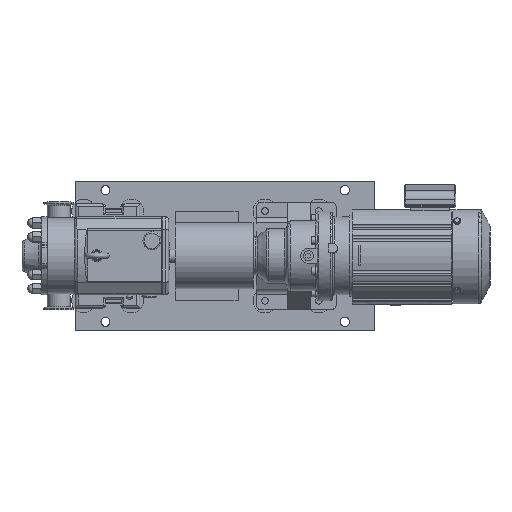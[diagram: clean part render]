
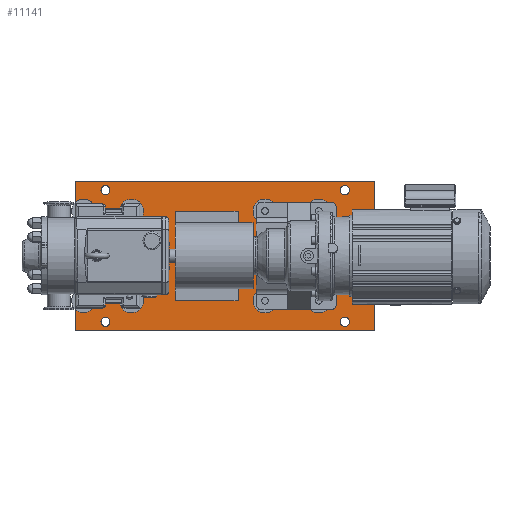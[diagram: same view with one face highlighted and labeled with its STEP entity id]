
A CAD part, top view. The second image highlights one B-rep face of the part: STEP entity #11141.
In plain terms, the highlighted planar face has unit normal (0, 0, 1).
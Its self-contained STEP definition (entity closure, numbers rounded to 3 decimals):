
#1141=LINE('',#19985,#1932);
#1145=LINE('',#19993,#1936);
#1148=LINE('',#19999,#1939);
#1151=LINE('',#20004,#1942);
#1932=VECTOR('',#15603,250.);
#1936=VECTOR('',#15609,500.);
#1939=VECTOR('',#15614,250.);
#1942=VECTOR('',#15619,500.);
#2654=PLANE('',#12386);
#2847=FACE_BOUND('',#4338,.T.);
#2848=FACE_BOUND('',#4339,.T.);
#2849=FACE_BOUND('',#4340,.T.);
#2850=FACE_BOUND('',#4341,.T.);
#2851=FACE_BOUND('',#4342,.T.);
#4338=EDGE_LOOP('',(#10255));
#4339=EDGE_LOOP('',(#10256));
#4340=EDGE_LOOP('',(#10257));
#4341=EDGE_LOOP('',(#10258));
#4342=EDGE_LOOP('',(#10259,#10260,#10261,#10262));
#4848=CIRCLE('',#12371,7.5);
#4850=CIRCLE('',#12374,7.5);
#4852=CIRCLE('',#12377,7.5);
#4854=CIRCLE('',#12380,7.5);
#5825=VERTEX_POINT('',#19965);
#5827=VERTEX_POINT('',#19970);
#5829=VERTEX_POINT('',#19975);
#5831=VERTEX_POINT('',#19980);
#5832=VERTEX_POINT('',#19983);
#5833=VERTEX_POINT('',#19984);
#5836=VERTEX_POINT('',#19992);
#5838=VERTEX_POINT('',#19998);
#7294=EDGE_CURVE('',#5825,#5825,#4848,.T.);
#7296=EDGE_CURVE('',#5827,#5827,#4850,.T.);
#7298=EDGE_CURVE('',#5829,#5829,#4852,.T.);
#7300=EDGE_CURVE('',#5831,#5831,#4854,.T.);
#7301=EDGE_CURVE('',#5832,#5833,#1141,.T.);
#7305=EDGE_CURVE('',#5833,#5836,#1145,.T.);
#7308=EDGE_CURVE('',#5836,#5838,#1148,.T.);
#7311=EDGE_CURVE('',#5838,#5832,#1151,.T.);
#10255=ORIENTED_EDGE('',*,*,#7294,.T.);
#10256=ORIENTED_EDGE('',*,*,#7296,.T.);
#10257=ORIENTED_EDGE('',*,*,#7298,.T.);
#10258=ORIENTED_EDGE('',*,*,#7300,.T.);
#10259=ORIENTED_EDGE('',*,*,#7301,.F.);
#10260=ORIENTED_EDGE('',*,*,#7311,.F.);
#10261=ORIENTED_EDGE('',*,*,#7308,.F.);
#10262=ORIENTED_EDGE('',*,*,#7305,.F.);
#11141=ADVANCED_FACE('',(#2847,#2848,#2849,#2850,#2851),#2654,.T.);
#12371=AXIS2_PLACEMENT_3D('',#19966,#15581,#15582);
#12374=AXIS2_PLACEMENT_3D('',#19971,#15587,#15588);
#12377=AXIS2_PLACEMENT_3D('',#19976,#15593,#15594);
#12380=AXIS2_PLACEMENT_3D('',#19981,#15599,#15600);
#12386=AXIS2_PLACEMENT_3D('',#20007,#15623,#15624);
#15581=DIRECTION('center_axis',(0.,0.,-1.));
#15582=DIRECTION('ref_axis',(1.,0.,0.));
#15587=DIRECTION('center_axis',(0.,0.,-1.));
#15588=DIRECTION('ref_axis',(1.,0.,0.));
#15593=DIRECTION('center_axis',(0.,0.,-1.));
#15594=DIRECTION('ref_axis',(1.,0.,0.));
#15599=DIRECTION('center_axis',(0.,0.,-1.));
#15600=DIRECTION('ref_axis',(1.,0.,0.));
#15603=DIRECTION('',(0.,1.,0.));
#15609=DIRECTION('',(1.,0.,0.));
#15614=DIRECTION('',(0.,-1.,0.));
#15619=DIRECTION('',(-1.,0.,0.));
#15623=DIRECTION('center_axis',(0.,0.,1.));
#15624=DIRECTION('ref_axis',(1.,0.,0.));
#19965=CARTESIAN_POINT('',(207.5,110.,12.));
#19966=CARTESIAN_POINT('Origin',(200.,110.,12.));
#19970=CARTESIAN_POINT('',(207.5,-110.,12.));
#19971=CARTESIAN_POINT('Origin',(200.,-110.,12.));
#19975=CARTESIAN_POINT('',(-192.5,110.,12.));
#19976=CARTESIAN_POINT('Origin',(-200.,110.,12.));
#19980=CARTESIAN_POINT('',(-192.5,-110.,12.));
#19981=CARTESIAN_POINT('Origin',(-200.,-110.,12.));
#19983=CARTESIAN_POINT('',(-250.,-125.,12.));
#19984=CARTESIAN_POINT('',(-250.,125.,12.));
#19985=CARTESIAN_POINT('',(-250.,125.,12.));
#19992=CARTESIAN_POINT('',(250.,125.,12.));
#19993=CARTESIAN_POINT('',(250.,125.,12.));
#19998=CARTESIAN_POINT('',(250.,-125.,12.));
#19999=CARTESIAN_POINT('',(250.,-125.,12.));
#20004=CARTESIAN_POINT('',(-250.,-125.,12.));
#20007=CARTESIAN_POINT('Origin',(0.,0.,
12.));
